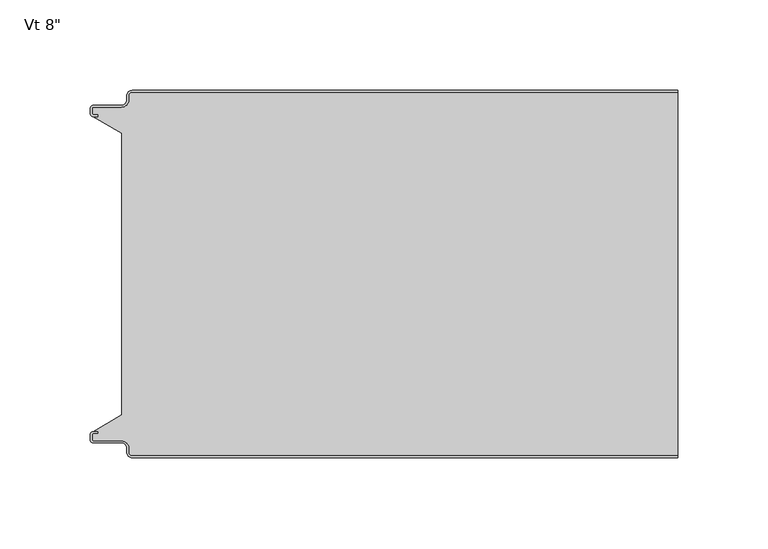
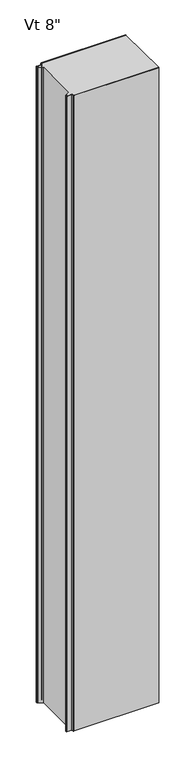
"""IFC4 building model written with IfcOpenShell, lengths in millimetres: plate geometry."""

from ifc_helpers import new_model, si_unit, frame, origin, place, context, project, spatial, polyline, circle_curve, source, transform, mapped, element, save
from ifc_brep_helpers import plane_surface, cylinder_surface, revolved_surface, advanced_brep


def plate_b4aca6f2(model_context):
    return source(origin(), model_context, "Body", "AdvancedBrep", [
        advanced_brep(
        [(-149.8873936, -2.9776189, 2400.0), (-147.9104835, -1.0007088, 2400.0), (153.7374998, -1.0007088, 2400.0), (153.7374998, 0.0, 2400.0), (-147.9102787, 0.0, 2400.0), (-150.8875472, -2.977286, 2400.0), (-150.8875472, -5.2691698, 2400.0), (-153.8648158, -8.2464384, 2400.0), (-169.4612418, -8.2464384, 2400.0), (-171.0491183, -9.8343149, 2400.0), (-171.0491183, -12.9058636, 2400.0), (-169.4612418, -14.4937401, 2400.0), (-167.1062063, -14.4937401, 2400.0), (-167.1062063, -13.4937365, 2400.0), (-169.4612373, -13.4937365, 2400.0), (-170.0491084, -12.9058654, 2400.0), (-170.0491084, -9.834334, 2400.0), (-169.4612512, -9.2464768, 2400.0), (-153.864739, -9.2464768, 2400.0), (-149.8873936, -5.2691315, 2400.0), (-149.8873936, -2.9776189, 0.0), (-149.8873936, -5.2691315, 0.0), (-153.864739, -9.2464768, 0.0), (-169.4612512, -9.2464768, 0.0), (-170.0491084, -9.834334, 0.0), (-170.0491084, -12.9058654, 0.0), (-169.4612373, -13.4937365, 0.0), (-167.1062063, -13.4937365, 0.0), (-167.1062063, -14.4937401, 0.0), (-169.4612418, -14.4937401, 0.0), (-171.0491183, -12.9058636, 0.0), (-171.0491183, -9.8343149, 0.0), (-169.4612418, -8.2464384, 0.0), (-153.8648158, -8.2464384, 0.0), (-150.8875472, -5.2691698, 0.0), (-150.8875472, -2.977286, 0.0), (-147.9102787, -1.75e-05, 0.0), (153.7374998, 0.0, 0.0), (153.7374998, -1.0007088, 0.0), (-147.9104835, -1.0007088, 0.0)],
        [
            (0, 1, circle_curve(frame((-147.9104835, -2.9776189, 2400.0), z_axis=(0.0, 0.0, -1.0), x_axis=(0.0, 1.0, 0.0)), 1.9769101)),
            (1, 2),
            (2, 3),
            (3, 4),
            (4, 5, circle_curve(frame((-147.9102787, -2.977286, 2400.0), z_axis=(0.0, 0.0, 1.0), x_axis=(0.0, 1.0, 0.0)), 2.9772685)),
            (5, 6),
            (6, 7, circle_curve(frame((-153.8648158, -5.2691698, 2400.0), z_axis=(0.0, 0.0, -1.0), x_axis=(0.0, 1.0, 0.0)), 2.9772685)),
            (7, 8),
            (8, 9, circle_curve(frame((-169.4612418, -9.8343149, 2400.0), z_axis=(0.0, 0.0, 1.0), x_axis=(0.0, 1.0, 0.0)), 1.5878765)),
            (9, 10),
            (10, 11, circle_curve(frame((-169.4612418, -12.9058636, 2400.0), z_axis=(0.0, 0.0, 1.0), x_axis=(0.0, 1.0, 0.0)), 1.5878765)),
            (11, 12),
            (12, 13),
            (13, 14),
            (14, 15, circle_curve(frame((-169.4612373, -12.9058654, 2400.0), z_axis=(0.0, 0.0, -1.0), x_axis=(0.0, 1.0, 0.0)), 0.5878711)),
            (15, 16),
            (16, 17, circle_curve(frame((-169.4612512, -9.834334, 2400.0), z_axis=(0.0, 0.0, -1.0), x_axis=(0.0, 1.0, 0.0)), 0.5878572)),
            (17, 18),
            (18, 19, circle_curve(frame((-153.864739, -5.2691315, 2400.0), z_axis=(0.0, 0.0, 1.0), x_axis=(0.0, 1.0, 0.0)), 3.9773454)),
            (19, 0),
            (20, 21),
            (21, 22, circle_curve(frame((-153.864739, -5.2691315, 0.0), z_axis=(0.0, 0.0, -1.0), x_axis=(0.0, 1.0, 0.0)), 3.9773454)),
            (22, 23),
            (23, 24, circle_curve(frame((-169.4612512, -9.834334, 0.0), z_axis=(0.0, 0.0, 1.0), x_axis=(0.0, 1.0, 0.0)), 0.5878572)),
            (24, 25),
            (25, 26, circle_curve(frame((-169.4612373, -12.9058654, 0.0), z_axis=(0.0, 0.0, 1.0), x_axis=(0.0, 1.0, 0.0)), 0.5878711)),
            (26, 27),
            (27, 28),
            (28, 29),
            (29, 30, circle_curve(frame((-169.4612418, -12.9058636, 0.0), z_axis=(0.0, 0.0, -1.0), x_axis=(0.0, 1.0, 0.0)), 1.5878765)),
            (30, 31),
            (31, 32, circle_curve(frame((-169.4612418, -9.8343149, 0.0), z_axis=(0.0, 0.0, -1.0), x_axis=(0.0, 1.0, 0.0)), 1.5878765)),
            (32, 33),
            (33, 34, circle_curve(frame((-153.8648158, -5.2691698, 0.0), z_axis=(0.0, 0.0, 1.0), x_axis=(0.0, 1.0, 0.0)), 2.9772685)),
            (34, 35),
            (35, 36, circle_curve(frame((-147.9102787, -2.977286, 0.0), z_axis=(0.0, 0.0, -1.0), x_axis=(0.0, 1.0, 0.0)), 2.9772685)),
            (36, 37),
            (37, 38),
            (38, 39),
            (39, 20, circle_curve(frame((-147.9104835, -2.9776189, 0.0), z_axis=(0.0, 0.0, 1.0), x_axis=(0.0, 1.0, 0.0)), 1.9769101)),
            (2, 38),
            (37, 3),
            (19, 21),
            (20, 0),
            (18, 22),
            (17, 23),
            (16, 24),
            (15, 25),
            (14, 26),
            (13, 27),
            (12, 28),
            (11, 29),
            (10, 30),
            (9, 31),
            (8, 32),
            (7, 33),
            (6, 34),
            (5, 35),
            (4, 36),
            (1, 39),
        ],
        [
            plane_surface(frame((422.5250002, 0.0, 2400.0), z_axis=(0.0, 0.0, 1.0), x_axis=(0.0, 1.0, 0.0))),
            plane_surface(frame((422.5250002, 0.0, 0.0), z_axis=(0.0, 0.0, -1.0), x_axis=(0.0, 1.0, 0.0))),
            plane_surface(frame((153.7374998, -213.2, 2400.0), z_axis=(1.0, 0.0, 0.0), x_axis=(0.0, 0.0, -1.0))),
            plane_surface(frame((-149.8873936, -2.9776189, 2400.0), z_axis=(1.0, 0.0, 0.0), x_axis=(0.0, 0.0, -1.0))),
            cylinder_surface(frame((-153.864739, -5.2691315, 2400.0), z_axis=(0.0, 0.0, 1.0), x_axis=(0.0, 1.0, 0.0)), 3.9773454),
            plane_surface(frame((-153.864739, -9.2464768, 2400.0), z_axis=(0.0, -1.0, 0.0), x_axis=(0.0, 0.0, -1.0))),
            revolved_surface(polyline([(-169.4612512, -9.2464768, 0.0), (-169.4612512, -9.2464768, 2400.0)]), (-169.4612512, -9.834334, 2400.0), (0.0, 0.0, -1.0)),
            plane_surface(frame((-170.0491084, -9.834334, 2400.0), z_axis=(1.0, 0.0, 0.0), x_axis=(0.0, 0.0, -1.0))),
            revolved_surface(polyline([(-169.4612373, -12.3179943, 0.0), (-169.4612373, -12.3179943, 2400.0)]), (-169.4612373, -12.9058654, 2400.0), (0.0, 0.0, -1.0)),
            plane_surface(frame((-169.4612373, -13.4937365, 2400.0), z_axis=(0.0, 1.0, 0.0), x_axis=(0.0, 0.0, -1.0))),
            plane_surface(frame((-167.1062063, -13.4937365, 2400.0), z_axis=(1.0, 0.0, 0.0), x_axis=(0.0, 0.0, -1.0))),
            plane_surface(frame((-167.1062063, -14.4937401, 2400.0), z_axis=(0.0, -1.0, 0.0), x_axis=(0.0, 0.0, -1.0))),
            cylinder_surface(frame((-169.4612418, -12.9058636, 2400.0), z_axis=(0.0, 0.0, 1.0), x_axis=(0.0, 1.0, 0.0)), 1.5878765),
            plane_surface(frame((-171.0491183, -12.9058636, 2400.0), z_axis=(-1.0, 0.0, 0.0), x_axis=(0.0, 0.0, -1.0))),
            cylinder_surface(frame((-169.4612418, -9.8343149, 2400.0), z_axis=(0.0, 0.0, 1.0), x_axis=(0.0, 1.0, 0.0)), 1.5878765),
            plane_surface(frame((-169.4612418, -8.2464384, 2400.0), z_axis=(0.0, 1.0, 0.0), x_axis=(0.0, 0.0, -1.0))),
            revolved_surface(polyline([(-153.8648158, -2.2919013, 0.0), (-153.8648158, -2.2919013, 2400.0)]), (-153.8648158, -5.2691698, 2400.0), (0.0, 0.0, -1.0)),
            plane_surface(frame((-150.8875472, -5.2691698, 2400.0), z_axis=(-1.0, 0.0, 0.0), x_axis=(0.0, 0.0, -1.0))),
            cylinder_surface(frame((-147.9102787, -2.977286, 2400.0), z_axis=(0.0, 0.0, 1.0), x_axis=(0.0, 1.0, 0.0)), 2.9772685),
            plane_surface(frame((-147.9102787, 0.0, 2400.0), z_axis=(0.0, 1.0, 0.0), x_axis=(0.0, 0.0, -1.0))),
            plane_surface(frame((997.0753372, -1.0007088, 2400.0), z_axis=(0.0, -1.0, 0.0), x_axis=(0.0, 0.0, -1.0))),
            revolved_surface(polyline([(-147.9104835, -1.0007088, 0.0), (-147.9104835, -1.0007088, 2400.0)]), (-147.9104835, -2.9776189, 2400.0), (0.0, 0.0, -1.0)),
        ],
        [
            (0, [[1, 2, 3, 4, 5, 6, 7, 8, 9, 10, 11, 12, 13, 14, 15, 16, 17, 18, 19, 20]]),
            (1, [[21, 22, 23, 24, 25, 26, 27, 28, 29, 30, 31, 32, 33, 34, 35, 36, 37, 38, 39, 40]]),
            (2, [[41, -38, 42, -3]]),
            (3, [[43, -21, 44, -20]]),
            (4, [[45, -22, -43, -19]]),
            (5, [[46, -23, -45, -18]]),
            (6, [[47, -24, -46, -17]]),
            (7, [[48, -25, -47, -16]]),
            (8, [[49, -26, -48, -15]]),
            (9, [[50, -27, -49, -14]]),
            (10, [[51, -28, -50, -13]]),
            (11, [[52, -29, -51, -12]]),
            (12, [[53, -30, -52, -11]]),
            (13, [[54, -31, -53, -10]]),
            (14, [[55, -32, -54, -9]]),
            (15, [[56, -33, -55, -8]]),
            (16, [[57, -34, -56, -7]]),
            (17, [[58, -35, -57, -6]]),
            (18, [[59, -36, -58, -5]]),
            (19, [[-4, -42, -37, -59]]),
            (20, [[-39, -41, -2, 60]]),
            (21, [[-44, -40, -60, -1]]),
        ],
    ),
        advanced_brep(
        [(-149.8873936, -200.2223811, 2400.0), (-149.8873936, -197.9308685, 2400.0), (-153.864739, -193.9535232, 2400.0), (-169.4612512, -193.9535232, 2400.0), (-170.0491084, -193.365666, 2400.0), (-170.0491084, -190.2941346, 2400.0), (-169.4612373, -189.7062635, 2400.0), (-167.1062063, -189.7062635, 2400.0), (-167.1062063, -188.7062599, 2400.0), (-169.4612418, -188.7062599, 2400.0), (-171.0491183, -190.2941364, 2400.0), (-171.0491183, -193.3656851, 2400.0), (-169.4612418, -194.9535616, 2400.0), (-153.8648158, -194.9535616, 2400.0), (-150.8875472, -197.9308302, 2400.0), (-150.8875472, -200.222714, 2400.0), (-147.9102787, -203.1999825, 2400.0), (153.7374998, -203.2, 2400.0), (153.7374998, -202.1992912, 2400.0), (-147.9104835, -202.1992912, 2400.0), (-149.8873936, -200.2223811, 0.0), (-147.9104835, -202.1992912, 0.0), (153.7374998, -202.1992912, 0.0), (153.7374998, -203.2, 0.0), (-147.9102787, -203.2, 0.0), (-150.8875472, -200.222714, 0.0), (-150.8875472, -197.9308302, 0.0), (-153.8648158, -194.9535616, 0.0), (-169.4612418, -194.9535616, 0.0), (-171.0491183, -193.3656851, 0.0), (-171.0491183, -190.2941364, 0.0), (-169.4612418, -188.7062599, 0.0), (-167.1062063, -188.7062599, 0.0), (-167.1062063, -189.7062635, 0.0), (-169.4612373, -189.7062635, 0.0), (-170.0491084, -190.2941346, 0.0), (-170.0491084, -193.365666, 0.0), (-169.4612512, -193.9535232, 0.0), (-153.864739, -193.9535232, 0.0), (-149.8873936, -197.9308685, 0.0)],
        [
            (0, 1),
            (1, 2, circle_curve(frame((-153.864739, -197.9308685, 2400.0), z_axis=(0.0, 0.0, 1.0), x_axis=(-1.0, 0.0, 0.0)), 3.9773454)),
            (2, 3),
            (3, 4, circle_curve(frame((-169.4612512, -193.365666, 2400.0), z_axis=(0.0, 0.0, -1.0), x_axis=(-1.0, 0.0, 0.0)), 0.5878572)),
            (4, 5),
            (5, 6, circle_curve(frame((-169.4612373, -190.2941346, 2400.0), z_axis=(0.0, 0.0, -1.0), x_axis=(-1.0, 0.0, 0.0)), 0.5878711)),
            (6, 7),
            (7, 8),
            (8, 9),
            (9, 10, circle_curve(frame((-169.4612418, -190.2941364, 2400.0), z_axis=(0.0, 0.0, 1.0), x_axis=(-1.0, 0.0, 0.0)), 1.5878765)),
            (10, 11),
            (11, 12, circle_curve(frame((-169.4612418, -193.3656851, 2400.0), z_axis=(0.0, 0.0, 1.0), x_axis=(-1.0, 0.0, 0.0)), 1.5878765)),
            (12, 13),
            (13, 14, circle_curve(frame((-153.8648158, -197.9308302, 2400.0), z_axis=(0.0, 0.0, -1.0), x_axis=(-1.0, 0.0, 0.0)), 2.9772685)),
            (14, 15),
            (15, 16, circle_curve(frame((-147.9102787, -200.222714, 2400.0), z_axis=(0.0, 0.0, 1.0), x_axis=(-1.0, 0.0, 0.0)), 2.9772685)),
            (16, 17),
            (17, 18),
            (18, 19),
            (19, 0, circle_curve(frame((-147.9104835, -200.2223811, 2400.0), z_axis=(0.0, 0.0, -1.0), x_axis=(-1.0, 0.0, 0.0)), 1.9769101)),
            (20, 21, circle_curve(frame((-147.9104835, -200.2223811, 0.0), z_axis=(0.0, 0.0, 1.0), x_axis=(-1.0, 0.0, 0.0)), 1.9769101)),
            (21, 22),
            (22, 23),
            (23, 24),
            (24, 25, circle_curve(frame((-147.9102787, -200.222714, 0.0), z_axis=(0.0, 0.0, -1.0), x_axis=(-1.0, 0.0, 0.0)), 2.9772685)),
            (25, 26),
            (26, 27, circle_curve(frame((-153.8648158, -197.9308302, 0.0), z_axis=(0.0, 0.0, 1.0), x_axis=(-1.0, 0.0, 0.0)), 2.9772685)),
            (27, 28),
            (28, 29, circle_curve(frame((-169.4612418, -193.3656851, 0.0), z_axis=(0.0, 0.0, -1.0), x_axis=(-1.0, 0.0, 0.0)), 1.5878765)),
            (29, 30),
            (30, 31, circle_curve(frame((-169.4612418, -190.2941364, 0.0), z_axis=(0.0, 0.0, -1.0), x_axis=(-1.0, 0.0, 0.0)), 1.5878765)),
            (31, 32),
            (32, 33),
            (33, 34),
            (34, 35, circle_curve(frame((-169.4612373, -190.2941346, 0.0), z_axis=(0.0, 0.0, 1.0), x_axis=(-1.0, 0.0, 0.0)), 0.5878711)),
            (35, 36),
            (36, 37, circle_curve(frame((-169.4612512, -193.365666, 0.0), z_axis=(0.0, 0.0, 1.0), x_axis=(-1.0, 0.0, 0.0)), 0.5878572)),
            (37, 38),
            (38, 39, circle_curve(frame((-153.864739, -197.9308685, 0.0), z_axis=(0.0, 0.0, -1.0), x_axis=(-1.0, 0.0, 0.0)), 3.9773454)),
            (39, 20),
            (17, 23),
            (22, 18),
            (16, 24),
            (21, 19),
            (20, 0),
            (39, 1),
            (38, 2),
            (37, 3),
            (4, 36),
            (35, 5),
            (34, 6),
            (33, 7),
            (32, 8),
            (31, 9),
            (30, 10),
            (29, 11),
            (28, 12),
            (27, 13),
            (26, 14),
            (25, 15),
        ],
        [
            plane_surface(frame((422.5250002, -203.2, 2400.0), z_axis=(0.0, 0.0, 1.0), x_axis=(0.0, -1.0, 0.0))),
            plane_surface(frame((422.5250002, -203.2, 0.0), z_axis=(0.0, 0.0, -1.0), x_axis=(0.0, -1.0, 0.0))),
            plane_surface(frame((153.7374998, -213.2, 2400.0), z_axis=(1.0, 0.0, 0.0), x_axis=(0.0, 0.0, -1.0))),
            plane_surface(frame((997.0725653, -203.2, 2400.0), z_axis=(0.0, -1.0, 0.0), x_axis=(0.0, 0.0, -1.0))),
            plane_surface(frame((-147.9104835, -202.1992912, 2400.0), z_axis=(0.0, 1.0, 0.0), x_axis=(0.0, 0.0, -1.0))),
            revolved_surface(polyline([(-149.8873936, -200.2223811, 0.0), (-149.8873936, -200.2223811, 2400.0)]), (-147.9104835, -200.2223811, 2400.0), (0.0, 0.0, -1.0)),
            plane_surface(frame((-149.8873936, -197.9308685, 2400.0), z_axis=(1.0, 0.0, 0.0), x_axis=(0.0, 0.0, -1.0))),
            cylinder_surface(frame((-153.864739, -197.9308685, 2400.0), z_axis=(0.0, 0.0, 1.0), x_axis=(-1.0, 0.0, 0.0)), 3.9773454),
            plane_surface(frame((-169.4612512, -193.9535232, 2400.0), z_axis=(0.0, 1.0, 0.0), x_axis=(0.0, 0.0, -1.0))),
            plane_surface(frame((-170.0491084, -190.2941346, 2400.0), z_axis=(1.0, 0.0, 0.0), x_axis=(0.0, 0.0, -1.0))),
            revolved_surface(polyline([(-170.0491084, -190.2941346, 0.0), (-170.0491084, -190.2941346, 2400.0)]), (-169.4612373, -190.2941346, 2400.0), (0.0, 0.0, -1.0)),
            plane_surface(frame((-167.1062063, -189.7062635, 2400.0), z_axis=(0.0, -1.0, 0.0), x_axis=(0.0, 0.0, -1.0))),
            plane_surface(frame((-167.1062063, -188.7062599, 2400.0), z_axis=(1.0, 0.0, 0.0), x_axis=(0.0, 0.0, -1.0))),
            plane_surface(frame((-169.4612418, -188.7062599, 2400.0), z_axis=(0.0, 1.0, 0.0), x_axis=(0.0, 0.0, -1.0))),
            cylinder_surface(frame((-169.4612418, -190.2941364, 2400.0), z_axis=(0.0, 0.0, 1.0), x_axis=(-1.0, 0.0, 0.0)), 1.5878765),
            plane_surface(frame((-171.0491183, -193.3656851, 2400.0), z_axis=(-1.0, 0.0, 0.0), x_axis=(0.0, 0.0, -1.0))),
            cylinder_surface(frame((-169.4612418, -193.3656851, 2400.0), z_axis=(0.0, 0.0, 1.0), x_axis=(-1.0, 0.0, 0.0)), 1.5878765),
            plane_surface(frame((-153.8648158, -194.9535616, 2400.0), z_axis=(0.0, -1.0, 0.0), x_axis=(0.0, 0.0, -1.0))),
            revolved_surface(polyline([(-156.8420843, -197.9308302, 0.0), (-156.8420843, -197.9308302, 2400.0)]), (-153.8648158, -197.9308302, 2400.0), (0.0, 0.0, -1.0)),
            plane_surface(frame((-150.8875472, -200.222714, 2400.0), z_axis=(-1.0, 0.0, 0.0), x_axis=(0.0, 0.0, -1.0))),
            cylinder_surface(frame((-147.9102787, -200.222714, 2400.0), z_axis=(0.0, 0.0, 1.0), x_axis=(-1.0, 0.0, 0.0)), 2.9772685),
            revolved_surface(polyline([(-170.0491084, -193.365666, 0.0), (-170.0491084, -193.365666, 2400.0)]), (-169.4612512, -193.365666, 2400.0), (0.0, 0.0, -1.0)),
        ],
        [
            (0, [[1, 2, 3, 4, 5, 6, 7, 8, 9, 10, 11, 12, 13, 14, 15, 16, 17, 18, 19, 20]]),
            (1, [[21, 22, 23, 24, 25, 26, 27, 28, 29, 30, 31, 32, 33, 34, 35, 36, 37, 38, 39, 40]]),
            (2, [[41, -23, 42, -18]]),
            (3, [[-24, -41, -17, 43]]),
            (4, [[-19, -42, -22, 44]]),
            (5, [[-44, -21, 45, -20]]),
            (6, [[-45, -40, 46, -1]]),
            (7, [[-46, -39, 47, -2]]),
            (8, [[-47, -38, 48, -3]]),
            (9, [[49, -36, 50, -5]]),
            (10, [[-50, -35, 51, -6]]),
            (11, [[-51, -34, 52, -7]]),
            (12, [[-52, -33, 53, -8]]),
            (13, [[-53, -32, 54, -9]]),
            (14, [[-54, -31, 55, -10]]),
            (15, [[-55, -30, 56, -11]]),
            (16, [[-56, -29, 57, -12]]),
            (17, [[-57, -28, 58, -13]]),
            (18, [[-58, -27, 59, -14]]),
            (19, [[-59, -26, 60, -15]]),
            (20, [[-60, -25, -43, -16]]),
            (21, [[-48, -37, -49, -4]]),
        ],
    ),
        advanced_brep(
        [(-149.88755, -200.2227194, 2400.0), (-147.910276, -202.1999935, 2400.0), (153.7374998, -202.2, 2400.0), (153.7374998, -1.0, 2400.0), (-147.910276, -1.0, 2400.0), (-149.88755, -2.9772806, 2400.0), (-149.88755, -5.2691705, 2400.0), (-153.8648171, -9.2464377, 2400.0), (-169.4612416, -9.2464377, 2400.0), (-170.0491185, -9.8343146, 2400.0), (-170.0491185, -12.9058635, 2400.0), (-169.4612418, -13.4937402, 2400.0), (-167.1062063, -13.4937402, 2400.0), (-167.1062063, -14.4937402, 2400.0), (-169.395785, -14.4937402, 2400.0), (-153.7374998, -23.7509135, 2400.0), (-153.7374998, -179.4490865, 2400.0), (-169.395785, -188.7062598, 2400.0), (-167.1062063, -188.7062598, 2400.0), (-167.1062063, -189.7062598, 2400.0), (-169.4612418, -189.7062598, 2400.0), (-170.0491185, -190.2941365, 2400.0), (-170.0491185, -193.3656854, 2400.0), (-169.4612416, -193.9535623, 2400.0), (-153.8648171, -193.9535623, 2400.0), (-149.88755, -197.9308295, 2400.0), (-149.88755, -200.2227194, 0.0), (-149.88755, -197.9308295, 0.0), (-153.8648171, -193.9535623, 0.0), (-169.4612416, -193.9535623, 0.0), (-170.0491185, -193.3656854, 0.0), (-170.0491185, -190.2941365, 0.0), (-169.4612418, -189.7062598, 0.0), (-167.1062063, -189.7062598, 0.0), (-167.1062063, -188.7062598, 0.0), (-169.395785, -188.7062598, 0.0), (-153.7374998, -179.4490865, 0.0), (-153.7374998, -23.7509179, 0.0), (-169.395785, -14.4937402, 0.0), (-167.1062063, -14.4937402, 0.0), (-167.1062063, -13.4937402, 0.0), (-169.4612418, -13.4937402, 0.0), (-170.0491185, -12.9058635, 0.0), (-170.0491185, -9.8343146, 0.0), (-169.4612416, -9.2464377, 0.0), (-153.8648171, -9.2464377, 0.0), (-149.88755, -5.2691705, 0.0), (-149.88755, -2.9772806, 0.0), (-147.910276, -1.0000065, 0.0), (153.7374998, -1.0, 0.0), (153.7374998, -202.2, 0.0), (-147.910276, -202.2, 0.0)],
        [
            (0, 1, circle_curve(frame((-147.910276, -200.2227194, 2400.0), z_axis=(0.0, 0.0, 1.0), x_axis=(-1.0, 0.0, 0.0)), 1.977274)),
            (1, 2),
            (2, 3),
            (3, 4),
            (4, 5, circle_curve(frame((-147.910276, -2.9772806, 2400.0), z_axis=(0.0, 0.0, 1.0), x_axis=(0.0, 1.0, 0.0)), 1.977274)),
            (5, 6),
            (6, 7, circle_curve(frame((-153.8648171, -5.2691705, 2400.0), z_axis=(0.0, 0.0, -1.0), x_axis=(0.0, 1.0, 0.0)), 3.9772671)),
            (7, 8),
            (8, 9, circle_curve(frame((-169.4612416, -9.8343146, 2400.0), z_axis=(0.0, 0.0, 1.0), x_axis=(0.0, 1.0, 0.0)), 0.5878769)),
            (9, 10),
            (10, 11, circle_curve(frame((-169.4612418, -12.9058635, 2400.0), z_axis=(0.0, 0.0, 1.0), x_axis=(0.0, 1.0, 0.0)), 0.5878766)),
            (11, 12),
            (12, 13),
            (13, 14),
            (14, 15),
            (15, 16),
            (16, 17),
            (17, 18),
            (18, 19),
            (19, 20),
            (20, 21, circle_curve(frame((-169.4612418, -190.2941365, 2400.0), z_axis=(0.0, 0.0, 1.0), x_axis=(-1.0, 0.0, 0.0)), 0.5878766)),
            (21, 22),
            (22, 23, circle_curve(frame((-169.4612416, -193.3656854, 2400.0), z_axis=(0.0, 0.0, 1.0), x_axis=(-1.0, 0.0, 0.0)), 0.5878769)),
            (23, 24),
            (24, 25, circle_curve(frame((-153.8648171, -197.9308295, 2400.0), z_axis=(0.0, 0.0, -1.0), x_axis=(-1.0, 0.0, 0.0)), 3.9772671)),
            (25, 0),
            (26, 27),
            (27, 28, circle_curve(frame((-153.8648171, -197.9308295, 0.0), z_axis=(0.0, 0.0, 1.0), x_axis=(-1.0, 0.0, 0.0)), 3.9772671)),
            (28, 29),
            (29, 30, circle_curve(frame((-169.4612416, -193.3656854, 0.0), z_axis=(0.0, 0.0, -1.0), x_axis=(-1.0, 0.0, 0.0)), 0.5878769)),
            (30, 31),
            (31, 32, circle_curve(frame((-169.4612418, -190.2941365, 0.0), z_axis=(0.0, 0.0, -1.0), x_axis=(-1.0, 0.0, 0.0)), 0.5878766)),
            (32, 33),
            (33, 34),
            (34, 35),
            (35, 36),
            (36, 37),
            (37, 38),
            (38, 39),
            (39, 40),
            (40, 41),
            (41, 42, circle_curve(frame((-169.4612418, -12.9058635, 0.0), z_axis=(0.0, 0.0, -1.0), x_axis=(0.0, 1.0, 0.0)), 0.5878766)),
            (42, 43),
            (43, 44, circle_curve(frame((-169.4612416, -9.8343146, 0.0), z_axis=(0.0, 0.0, -1.0), x_axis=(0.0, 1.0, 0.0)), 0.5878769)),
            (44, 45),
            (45, 46, circle_curve(frame((-153.8648171, -5.2691705, 0.0), z_axis=(0.0, 0.0, 1.0), x_axis=(0.0, 1.0, 0.0)), 3.9772671)),
            (46, 47),
            (47, 48, circle_curve(frame((-147.910276, -2.9772806, 0.0), z_axis=(0.0, 0.0, -1.0), x_axis=(0.0, 1.0, 0.0)), 1.977274)),
            (48, 49),
            (49, 50),
            (50, 51),
            (51, 26, circle_curve(frame((-147.910276, -200.2227194, 0.0), z_axis=(0.0, 0.0, -1.0), x_axis=(-1.0, 0.0, 0.0)), 1.977274)),
            (15, 37),
            (36, 16),
            (2, 50),
            (49, 3),
            (25, 27),
            (26, 0),
            (24, 28),
            (23, 29),
            (22, 30),
            (21, 31),
            (20, 32),
            (19, 33),
            (18, 34),
            (17, 35),
            (1, 51),
            (4, 48),
            (47, 5),
            (14, 38),
            (13, 39),
            (12, 40),
            (11, 41),
            (10, 42),
            (9, 43),
            (8, 44),
            (7, 45),
            (6, 46),
        ],
        [
            plane_surface(frame((422.5250002, -202.2, 2400.0), z_axis=(0.0, 0.0, 1.0), x_axis=(0.0, -1.0, 0.0))),
            plane_surface(frame((422.5250002, -202.2, 0.0), z_axis=(0.0, 0.0, -1.0), x_axis=(0.0, -1.0, 0.0))),
            plane_surface(frame((-153.7374998, -179.4490865, 2400.0), z_axis=(-1.0, 0.0, 0.0), x_axis=(0.0, 0.0, -1.0))),
            plane_surface(frame((153.7374998, -213.2, 2400.0), z_axis=(1.0, 0.0, 0.0), x_axis=(0.0, 0.0, -1.0))),
            plane_surface(frame((-149.88755, -200.2227194, 2400.0), z_axis=(-1.0, 0.0, 0.0), x_axis=(0.0, 0.0, -1.0))),
            revolved_surface(polyline([(-157.84208420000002, -197.9308295, 0.0), (-157.84208420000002, -197.9308295, 2400.0)]), (-153.8648171, -197.9308295, 2400.0), (0.0, 0.0, -1.0)),
            plane_surface(frame((-153.8648171, -193.9535623, 2400.0), z_axis=(0.0, -1.0, 0.0), x_axis=(0.0, 0.0, -1.0))),
            cylinder_surface(frame((-169.4612416, -193.3656854, 2400.0), z_axis=(0.0, 0.0, 1.0), x_axis=(-1.0, 0.0, 0.0)), 0.5878769),
            plane_surface(frame((-170.0491185, -193.3656854, 2400.0), z_axis=(-1.0, 0.0, 0.0), x_axis=(0.0, 0.0, -1.0))),
            cylinder_surface(frame((-169.4612418, -190.2941365, 2400.0), z_axis=(0.0, 0.0, 1.0), x_axis=(-1.0, 0.0, 0.0)), 0.5878766),
            plane_surface(frame((-169.4612418, -189.7062598, 2400.0), z_axis=(0.0, 1.0, 0.0), x_axis=(0.0, 0.0, -1.0))),
            plane_surface(frame((-167.1062063, -189.7062598, 2400.0), z_axis=(-1.0, 0.0, 0.0), x_axis=(0.0, 0.0, -1.0))),
            plane_surface(frame((-167.1062063, -188.7062598, 2400.0), z_axis=(0.0, -1.0, 0.0), x_axis=(0.0, 0.0, -1.0))),
            plane_surface(frame((-169.395785, -188.7062598, 2400.0), z_axis=(-0.5089147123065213, 0.860816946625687, 0.0), x_axis=(0.0, 0.0, -1.0))),
            plane_surface(frame((997.0725653, -202.2, 2400.0), z_axis=(0.0, -1.0, 0.0), x_axis=(0.0, 0.0, -1.0))),
            cylinder_surface(frame((-147.910276, -200.2227194, 2400.0), z_axis=(0.0, 0.0, 1.0), x_axis=(-1.0, 0.0, 0.0)), 1.977274),
            cylinder_surface(frame((-147.910276, -2.9772806, 2400.0), z_axis=(0.0, 0.0, 1.0), x_axis=(0.0, 1.0, 0.0)), 1.977274),
            plane_surface(frame((-147.910276, -1.0, 2400.0), z_axis=(0.0, 1.0, 0.0), x_axis=(0.0, 0.0, -1.0))),
            plane_surface(frame((-153.7374998, -23.7509135, 2400.0), z_axis=(-0.5089147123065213, -0.860816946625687, 0.0), x_axis=(0.0, 0.0, -1.0))),
            plane_surface(frame((-169.395785, -14.4937402, 2400.0), z_axis=(0.0, 1.0, 0.0), x_axis=(0.0, 0.0, -1.0))),
            plane_surface(frame((-167.1062063, -14.4937402, 2400.0), z_axis=(-1.0, 0.0, 0.0), x_axis=(0.0, 0.0, -1.0))),
            plane_surface(frame((-167.1062063, -13.4937402, 2400.0), z_axis=(0.0, -1.0, 0.0), x_axis=(0.0, 0.0, -1.0))),
            cylinder_surface(frame((-169.4612418, -12.9058635, 2400.0), z_axis=(0.0, 0.0, 1.0), x_axis=(0.0, 1.0, 0.0)), 0.5878766),
            plane_surface(frame((-170.0491185, -12.9058635, 2400.0), z_axis=(-1.0, 0.0, 0.0), x_axis=(0.0, 0.0, -1.0))),
            cylinder_surface(frame((-169.4612416, -9.8343146, 2400.0), z_axis=(0.0, 0.0, 1.0), x_axis=(0.0, 1.0, 0.0)), 0.5878769),
            plane_surface(frame((-169.4612416, -9.2464377, 2400.0), z_axis=(0.0, 1.0, 0.0), x_axis=(0.0, 0.0, -1.0))),
            revolved_surface(polyline([(-153.8648171, -1.2919034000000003, 0.0), (-153.8648171, -1.2919034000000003, 2400.0)]), (-153.8648171, -5.2691705, 2400.0), (0.0, 0.0, -1.0)),
            plane_surface(frame((-149.88755, -5.2691705, 2400.0), z_axis=(-1.0, 0.0, 0.0), x_axis=(0.0, 0.0, -1.0))),
        ],
        [
            (0, [[1, 2, 3, 4, 5, 6, 7, 8, 9, 10, 11, 12, 13, 14, 15, 16, 17, 18, 19, 20, 21, 22, 23, 24, 25, 26]]),
            (1, [[27, 28, 29, 30, 31, 32, 33, 34, 35, 36, 37, 38, 39, 40, 41, 42, 43, 44, 45, 46, 47, 48, 49, 50, 51, 52]]),
            (2, [[53, -37, 54, -16]]),
            (3, [[55, -50, 56, -3]]),
            (4, [[57, -27, 58, -26]]),
            (5, [[59, -28, -57, -25]]),
            (6, [[60, -29, -59, -24]]),
            (7, [[61, -30, -60, -23]]),
            (8, [[62, -31, -61, -22]]),
            (9, [[63, -32, -62, -21]]),
            (10, [[64, -33, -63, -20]]),
            (11, [[65, -34, -64, -19]]),
            (12, [[66, -35, -65, -18]]),
            (13, [[-54, -36, -66, -17]]),
            (14, [[-51, -55, -2, 67]]),
            (15, [[-58, -52, -67, -1]]),
            (16, [[68, -48, 69, -5]]),
            (17, [[-4, -56, -49, -68]]),
            (18, [[70, -38, -53, -15]]),
            (19, [[71, -39, -70, -14]]),
            (20, [[72, -40, -71, -13]]),
            (21, [[73, -41, -72, -12]]),
            (22, [[74, -42, -73, -11]]),
            (23, [[75, -43, -74, -10]]),
            (24, [[76, -44, -75, -9]]),
            (25, [[77, -45, -76, -8]]),
            (26, [[78, -46, -77, -7]]),
            (27, [[-69, -47, -78, -6]]),
        ],
    ),
    ])


if __name__ == "__main__":
    model = new_model("IFC4")
    model_context = context("Model", 3, world=origin())
    ifc_project = project(units=[si_unit("LENGTHUNIT", "METRE", prefix="MILLI")], contexts=[model_context])
    site = spatial("IfcSite", under=ifc_project)
    building = spatial("IfcBuilding", under=site)
    placement = place(None, origin())
    plate_shape = plate_b4aca6f2(model_context)
    element("IfcPlate", 1, ObjectType="KIP-SLI-FLI-R19-CP-Vt-FL_FL : Vt 8\"", at=placement, inside=building, context=model_context, shape_type="MappedRepresentation", body=[
        mapped(plate_shape, transform((0.0, 0.0, 0.0), x_axis=(1.0, 0.0, 0.0), y_axis=(0.0, 1.0, 0.0), z_axis=(0.0, 0.0, 1.0))),
    ])
    save(model, "model.ifc")
